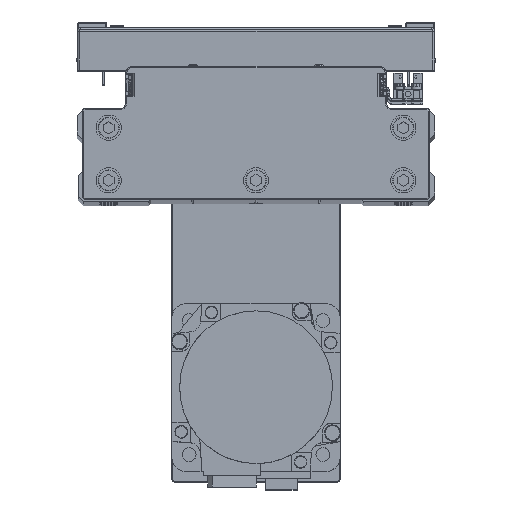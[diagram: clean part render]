
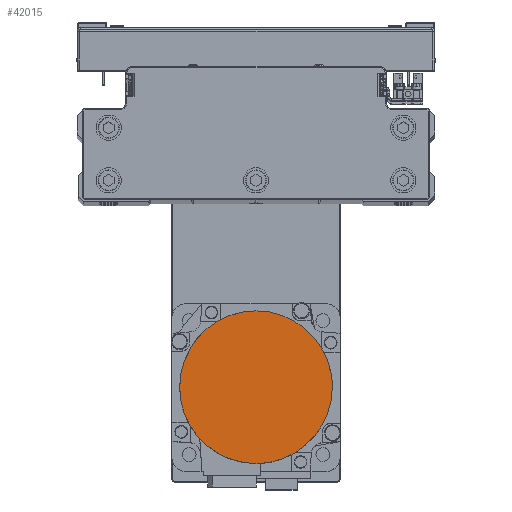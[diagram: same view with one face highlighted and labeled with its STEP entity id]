
A CAD part, top view. The second image highlights one B-rep face of the part: STEP entity #42015.
In plain terms, the highlighted planar face has unit normal (0, 0, 1) as drawn and (0, 0, -1) by its records, which use the part's own axes.
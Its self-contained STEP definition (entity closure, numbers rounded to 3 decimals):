
#315 = CARTESIAN_POINT ( 'NONE',  ( -28.862, 22.143, -122.2 ) ) ;
#1165 = CARTESIAN_POINT ( 'NONE',  ( -31.502, -18.192, -122.2 ) ) ;
#2555 = DIRECTION ( 'NONE',  ( 0., 0., 1. ) ) ;
#2726 = DIRECTION ( 'NONE',  ( 0., 0., 1. ) ) ;
#3726 = CARTESIAN_POINT ( 'NONE',  ( -22.143, 28.862, -122.2 ) ) ;
#4576 = CARTESIAN_POINT ( 'NONE',  ( -35.139, -9.412, -122.2 ) ) ;
#4793 = CARTESIAN_POINT ( 'NONE',  ( -2.376, -36.3, -122.2 ) ) ;
#6134 = FACE_OUTER_BOUND ( 'NONE', #13750, .T. ) ;
#7151 = CARTESIAN_POINT ( 'NONE',  ( -11.696, 34.446, -122.2 ) ) ;
#7196 = ORIENTED_EDGE ( 'NONE', *, *, #36128, .F. ) ;
#7382 = CARTESIAN_POINT ( 'NONE',  ( -36.3, 0., -122.2 ) ) ;
#8020 = CARTESIAN_POINT ( 'NONE',  ( -36.3, 0., -122.2 ) ) ;
#8235 = CARTESIAN_POINT ( 'NONE',  ( -11.696, -34.446, -122.2 ) ) ;
#9226 = DIRECTION ( 'NONE',  ( 0., 0., 1. ) ) ;
#9970 = B_SPLINE_CURVE_WITH_KNOTS ( 'NONE', 3,
 ( #8020, #21963, #35870, #4576, #18529, #32439, #1165, #15096, #29027, #42953, #11667, #25615, #39514, #8235, #22168, #36086, #4793, #18754 ),
 .UNSPECIFIED., .F., .F.,
 ( 4, 2, 2, 2, 2, 2, 2, 2, 4 ),
 ( 0., 0.125, 0.25, 0.375, 0.5, 0.625, 0.75, 0.875, 1. ),
 .UNSPECIFIED. ) ;
#10577 = CARTESIAN_POINT ( 'NONE',  ( -2.376, 36.3, -122.2 ) ) ;
#10816 = CARTESIAN_POINT ( 'NONE',  ( -35.139, 9.412, -122.2 ) ) ;
#11667 = CARTESIAN_POINT ( 'NONE',  ( -22.143, -28.862, -122.2 ) ) ;
#13700 = AXIS2_PLACEMENT_3D ( 'NONE', #34011, #2726, #16680 ) ;
#13750 = EDGE_LOOP ( 'NONE', ( #14638, #7196, #22875, #25133 ) ) ;
#14197 = VERTEX_POINT ( 'NONE', #43112 ) ;
#14238 = CARTESIAN_POINT ( 'NONE',  ( -31.502, 18.192, -122.2 ) ) ;
#14500 = VERTEX_POINT ( 'NONE', #43225 ) ;
#14638 = ORIENTED_EDGE ( 'NONE', *, *, #27209, .F. ) ;
#15096 = CARTESIAN_POINT ( 'NONE',  ( -28.862, -22.143, -122.2 ) ) ;
#16480 = AXIS2_PLACEMENT_3D ( 'NONE', #33846, #2555, #16515 ) ;
#16515 = DIRECTION ( 'NONE',  ( -1., 0., 0. ) ) ;
#16680 = DIRECTION ( 'NONE',  ( 1., 0., 0. ) ) ;
#17679 = CARTESIAN_POINT ( 'NONE',  ( -23.988, 27.348, -122.2 ) ) ;
#18430 = CIRCLE ( 'NONE', #43905, 36.3 ) ;
#18529 = CARTESIAN_POINT ( 'NONE',  ( -34.446, -11.696, -122.2 ) ) ;
#18754 = CARTESIAN_POINT ( 'NONE',  ( 0., -36.3, -122.2 ) ) ;
#20082 = PLANE ( 'NONE',  #13700 ) ;
#20311 = EDGE_CURVE ( 'NONE', #14500, #37982, #38764, .T. ) ;
#21095 = CARTESIAN_POINT ( 'NONE',  ( -16.086, 32.628, -122.2 ) ) ;
#21317 = VERTEX_POINT ( 'NONE', #25874 ) ;
#21963 = CARTESIAN_POINT ( 'NONE',  ( -36.3, -2.376, -122.2 ) ) ;
#22168 = CARTESIAN_POINT ( 'NONE',  ( -9.412, -35.139, -122.2 ) ) ;
#22875 = ORIENTED_EDGE ( 'NONE', *, *, #20311, .F. ) ;
#23173 = DIRECTION ( 'NONE',  ( -1., 0., 0. ) ) ;
#24514 = CARTESIAN_POINT ( 'NONE',  ( -4.752, 36.066, -122.2 ) ) ;
#24745 = CARTESIAN_POINT ( 'NONE',  ( -36.066, 4.752, -122.2 ) ) ;
#25133 = ORIENTED_EDGE ( 'NONE', *, *, #28680, .F. ) ;
#25615 = CARTESIAN_POINT ( 'NONE',  ( -18.192, -31.502, -122.2 ) ) ;
#25874 = CARTESIAN_POINT ( 'NONE',  ( 36.3, 0., -122.2 ) ) ;
#27209 = EDGE_CURVE ( 'NONE', #14197, #21317, #18430, .T. ) ;
#28168 = CARTESIAN_POINT ( 'NONE',  ( -32.628, 16.086, -122.2 ) ) ;
#28680 = EDGE_CURVE ( 'NONE', #21317, #14500, #36146, .T. ) ;
#29027 = CARTESIAN_POINT ( 'NONE',  ( -27.348, -23.988, -122.2 ) ) ;
#31592 = CARTESIAN_POINT ( 'NONE',  ( -27.348, 23.988, -122.2 ) ) ;
#32439 = CARTESIAN_POINT ( 'NONE',  ( -32.628, -16.086, -122.2 ) ) ;
#33846 = CARTESIAN_POINT ( 'NONE',  ( 0., 0., -122.2 ) ) ;
#34011 = CARTESIAN_POINT ( 'NONE',  ( 0., 0., -122.2 ) ) ;
#35012 = CARTESIAN_POINT ( 'NONE',  ( -18.192, 31.502, -122.2 ) ) ;
#35870 = CARTESIAN_POINT ( 'NONE',  ( -36.066, -4.752, -122.2 ) ) ;
#36086 = CARTESIAN_POINT ( 'NONE',  ( -4.752, -36.066, -122.2 ) ) ;
#36128 = EDGE_CURVE ( 'NONE', #37982, #14197, #9970, .T. ) ;
#36146 = CIRCLE ( 'NONE', #16480, 36.3 ) ;
#36499 = CARTESIAN_POINT ( 'NONE',  ( -36.3, 0., -122.2 ) ) ;
#37982 = VERTEX_POINT ( 'NONE', #36499 ) ;
#38443 = CARTESIAN_POINT ( 'NONE',  ( -9.412, 35.139, -122.2 ) ) ;
#38662 = CARTESIAN_POINT ( 'NONE',  ( -36.3, 2.376, -122.2 ) ) ;
#38764 = B_SPLINE_CURVE_WITH_KNOTS ( 'NONE', 3,
 ( #41861, #10577, #24514, #38443, #7151, #21095, #35012, #3726, #17679, #31592, #315, #14238, #28168, #42092, #10816, #24745, #38662, #7382 ),
 .UNSPECIFIED., .F., .F.,
 ( 4, 2, 2, 2, 2, 2, 2, 2, 4 ),
 ( 0., 0.125, 0.25, 0.375, 0.5, 0.625, 0.75, 0.875, 1. ),
 .UNSPECIFIED. ) ;
#39514 = CARTESIAN_POINT ( 'NONE',  ( -16.086, -32.628, -122.2 ) ) ;
#40493 = CARTESIAN_POINT ( 'NONE',  ( 0., 0., -122.2 ) ) ;
#41861 = CARTESIAN_POINT ( 'NONE',  ( 0., 36.3, -122.2 ) ) ;
#42015 = ADVANCED_FACE ( 'NONE', ( #6134 ), #20082, .F. ) ;
#42092 = CARTESIAN_POINT ( 'NONE',  ( -34.446, 11.696, -122.2 ) ) ;
#42953 = CARTESIAN_POINT ( 'NONE',  ( -23.988, -27.348, -122.2 ) ) ;
#43112 = CARTESIAN_POINT ( 'NONE',  ( 0., -36.3, -122.2 ) ) ;
#43225 = CARTESIAN_POINT ( 'NONE',  ( 0., 36.3, -122.2 ) ) ;
#43905 = AXIS2_PLACEMENT_3D ( 'NONE', #40493, #9226, #23173 ) ;
